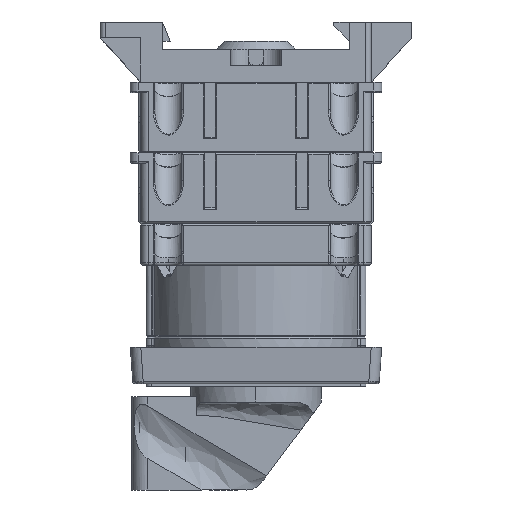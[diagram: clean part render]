
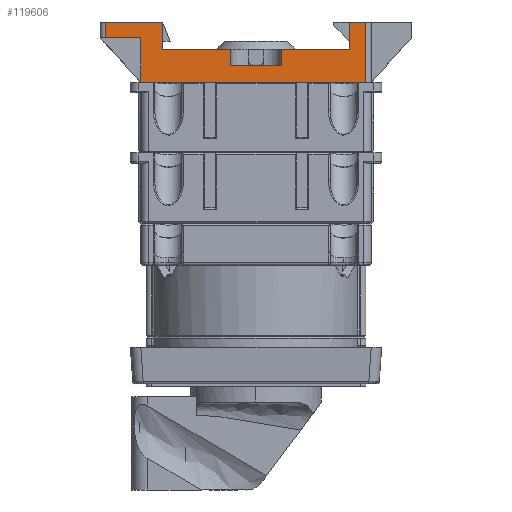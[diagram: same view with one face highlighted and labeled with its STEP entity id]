
A CAD part, left-side view. The second image highlights one B-rep face of the part: STEP entity #119606.
In plain terms, the highlighted planar face has unit normal (-1, 0, 0).
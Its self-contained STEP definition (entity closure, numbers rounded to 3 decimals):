
#621 = VECTOR ( 'NONE', #29292, 1000. ) ;
#1589 = ORIENTED_EDGE ( 'NONE', *, *, #130470, .F. ) ;
#1744 = ORIENTED_EDGE ( 'NONE', *, *, #96057, .F. ) ;
#3516 = EDGE_CURVE ( 'NONE', #81486, #97205, #51312, .T. ) ;
#6375 = CARTESIAN_POINT ( 'NONE',  ( -15.639, -22.961, -144.082 ) ) ;
#6650 = ORIENTED_EDGE ( 'NONE', *, *, #123489, .F. ) ;
#10185 = CARTESIAN_POINT ( 'NONE',  ( -15.639, 23.689, -144.082 ) ) ;
#10835 = CARTESIAN_POINT ( 'NONE',  ( -15.639, -0.311, -152.482 ) ) ;
#12238 = DIRECTION ( 'NONE',  ( 0., 0., 1. ) ) ;
#13483 = LINE ( 'NONE', #6375, #49563 ) ;
#15300 = VECTOR ( 'NONE', #32057, 1000. ) ;
#15307 = DIRECTION ( 'NONE',  ( 0., 0., 1. ) ) ;
#15865 = VERTEX_POINT ( 'NONE', #128282 ) ;
#16726 = VECTOR ( 'NONE', #58040, 1000. ) ;
#19023 = ORIENTED_EDGE ( 'NONE', *, *, #139476, .F. ) ;
#19181 = VERTEX_POINT ( 'NONE', #129572 ) ;
#19647 = CARTESIAN_POINT ( 'NONE',  ( -15.639, 12.739, -144.082 ) ) ;
#20296 = ORIENTED_EDGE ( 'NONE', *, *, #111441, .T. ) ;
#21697 = CARTESIAN_POINT ( 'NONE',  ( -15.639, 16.889, -147.082 ) ) ;
#22864 = VECTOR ( 'NONE', #82666, 1000. ) ;
#24028 = CARTESIAN_POINT ( 'NONE',  ( -15.639, 16.889, -147.082 ) ) ;
#24228 = EDGE_LOOP ( 'NONE', ( #82853, #41825, #1744, #47887, #20296, #89661, #19023, #6650, #132461, #106293, #92398, #122665, #100392, #1589 ) ) ;
#24602 = EDGE_CURVE ( 'NONE', #129950, #15865, #13483, .T. ) ;
#25399 = VERTEX_POINT ( 'NONE', #19647 ) ;
#26353 = VERTEX_POINT ( 'NONE', #50634 ) ;
#28101 = DIRECTION ( 'NONE',  ( 0., 0., 1. ) ) ;
#29292 = DIRECTION ( 'NONE',  ( 0., 1., 0. ) ) ;
#32057 = DIRECTION ( 'NONE',  ( 0., 1., 0. ) ) ;
#32197 = CARTESIAN_POINT ( 'NONE',  ( -15.639, 16.889, -155.582 ) ) ;
#33398 = CARTESIAN_POINT ( 'NONE',  ( -15.639, -26.111, -155.582 ) ) ;
#39403 = CARTESIAN_POINT ( 'NONE',  ( -15.639, -9.911, -152.482 ) ) ;
#40286 = CARTESIAN_POINT ( 'NONE',  ( -15.639, -27.111, -144.082 ) ) ;
#41825 = ORIENTED_EDGE ( 'NONE', *, *, #132750, .T. ) ;
#41841 = VECTOR ( 'NONE', #122661, 1000. ) ;
#41967 = VERTEX_POINT ( 'NONE', #32197 ) ;
#43111 = VECTOR ( 'NONE', #124303, 1000. ) ;
#45389 = LINE ( 'NONE', #80943, #62592 ) ;
#46361 = DIRECTION ( 'NONE',  ( 0., -1., 0. ) ) ;
#46561 = LINE ( 'NONE', #58872, #43111 ) ;
#47887 = ORIENTED_EDGE ( 'NONE', *, *, #64589, .F. ) ;
#49563 = VECTOR ( 'NONE', #28101, 1000. ) ;
#50422 = VECTOR ( 'NONE', #68744, 1000. ) ;
#50634 = CARTESIAN_POINT ( 'NONE',  ( -15.639, 12.739, -149.282 ) ) ;
#51312 = LINE ( 'NONE', #118559, #94343 ) ;
#52320 = VERTEX_POINT ( 'NONE', #10835 ) ;
#54597 = CARTESIAN_POINT ( 'NONE',  ( -15.639, -22.961, -149.282 ) ) ;
#56723 = VECTOR ( 'NONE', #15307, 1000. ) ;
#58040 = DIRECTION ( 'NONE',  ( 0., 1., 0. ) ) ;
#58872 = CARTESIAN_POINT ( 'NONE',  ( -15.639, 12.739, -149.282 ) ) ;
#60862 = LINE ( 'NONE', #40286, #621 ) ;
#62592 = VECTOR ( 'NONE', #46361, 1000. ) ;
#63686 = DIRECTION ( 'NONE',  ( 0., 0., -1. ) ) ;
#64589 = EDGE_CURVE ( 'NONE', #25399, #26353, #74665, .T. ) ;
#67552 = LINE ( 'NONE', #102945, #50422 ) ;
#68494 = CARTESIAN_POINT ( 'NONE',  ( -15.639, -0.311, -152.482 ) ) ;
#68744 = DIRECTION ( 'NONE',  ( 0., 1., 0. ) ) ;
#69171 = LINE ( 'NONE', #39403, #22864 ) ;
#72803 = EDGE_CURVE ( 'NONE', #75296, #129950, #46561, .T. ) ;
#73400 = VERTEX_POINT ( 'NONE', #21697 ) ;
#73673 = LINE ( 'NONE', #132471, #15300 ) ;
#73969 = LINE ( 'NONE', #68494, #56723 ) ;
#74665 = LINE ( 'NONE', #83974, #98705 ) ;
#75296 = VERTEX_POINT ( 'NONE', #92427 ) ;
#76664 = EDGE_CURVE ( 'NONE', #101685, #15865, #73673, .T. ) ;
#79446 = CARTESIAN_POINT ( 'NONE',  ( -15.639, -9.911, -152.482 ) ) ;
#80943 = CARTESIAN_POINT ( 'NONE',  ( -15.639, 12.739, -149.282 ) ) ;
#81486 = VERTEX_POINT ( 'NONE', #10185 ) ;
#82596 = CARTESIAN_POINT ( 'NONE',  ( -15.639, -26.111, -155.582 ) ) ;
#82666 = DIRECTION ( 'NONE',  ( 0., 0., 1. ) ) ;
#82853 = ORIENTED_EDGE ( 'NONE', *, *, #142108, .F. ) ;
#83974 = CARTESIAN_POINT ( 'NONE',  ( -15.639, 12.739, -144.082 ) ) ;
#85398 = DIRECTION ( 'NONE',  ( 0., 0., -1. ) ) ;
#85923 = DIRECTION ( 'NONE',  ( 0., 0., 1. ) ) ;
#89426 = CARTESIAN_POINT ( 'NONE',  ( -15.639, -0.311, -152.482 ) ) ;
#89661 = ORIENTED_EDGE ( 'NONE', *, *, #3516, .T. ) ;
#90536 = LINE ( 'NONE', #24028, #16726 ) ;
#92398 = ORIENTED_EDGE ( 'NONE', *, *, #76664, .T. ) ;
#92427 = CARTESIAN_POINT ( 'NONE',  ( -15.639, -9.911, -149.282 ) ) ;
#94343 = VECTOR ( 'NONE', #63686, 1000. ) ;
#96057 = EDGE_CURVE ( 'NONE', #26353, #19181, #45389, .T. ) ;
#96307 = DIRECTION ( 'NONE',  ( 1., 0., 0. ) ) ;
#96502 = CARTESIAN_POINT ( 'NONE',  ( -15.639, 16.889, -155.582 ) ) ;
#97205 = VERTEX_POINT ( 'NONE', #141230 ) ;
#98071 = VERTEX_POINT ( 'NONE', #79446 ) ;
#98705 = VECTOR ( 'NONE', #85398, 1000. ) ;
#98751 = LINE ( 'NONE', #96502, #105619 ) ;
#100392 = ORIENTED_EDGE ( 'NONE', *, *, #72803, .F. ) ;
#101112 = EDGE_CURVE ( 'NONE', #103278, #101685, #109661, .T. ) ;
#101685 = VERTEX_POINT ( 'NONE', #108150 ) ;
#102562 = EDGE_CURVE ( 'NONE', #103278, #41967, #67552, .T. ) ;
#102945 = CARTESIAN_POINT ( 'NONE',  ( -15.639, -27.111, -155.582 ) ) ;
#103278 = VERTEX_POINT ( 'NONE', #82596 ) ;
#105619 = VECTOR ( 'NONE', #85923, 1000. ) ;
#106293 = ORIENTED_EDGE ( 'NONE', *, *, #101112, .T. ) ;
#106832 = CARTESIAN_POINT ( 'NONE',  ( -15.639, -27.111, -155.582 ) ) ;
#108150 = CARTESIAN_POINT ( 'NONE',  ( -15.639, -26.111, -144.082 ) ) ;
#109661 = LINE ( 'NONE', #33398, #113165 ) ;
#111441 = EDGE_CURVE ( 'NONE', #25399, #81486, #60862, .T. ) ;
#112338 = LINE ( 'NONE', #89426, #41841 ) ;
#113165 = VECTOR ( 'NONE', #12238, 1000. ) ;
#118559 = CARTESIAN_POINT ( 'NONE',  ( -15.639, 23.689, -155.582 ) ) ;
#119606 = ADVANCED_FACE ( 'NONE', ( #123722 ), #129978, .F. ) ;
#119824 = DIRECTION ( 'NONE',  ( 0., -1., 0. ) ) ;
#122661 = DIRECTION ( 'NONE',  ( 0., -1., 0. ) ) ;
#122665 = ORIENTED_EDGE ( 'NONE', *, *, #24602, .F. ) ;
#123489 = EDGE_CURVE ( 'NONE', #41967, #73400, #98751, .T. ) ;
#123722 = FACE_OUTER_BOUND ( 'NONE', #24228, .T. ) ;
#124303 = DIRECTION ( 'NONE',  ( 0., -1., 0. ) ) ;
#126614 = AXIS2_PLACEMENT_3D ( 'NONE', #106832, #96307, #119824 ) ;
#128282 = CARTESIAN_POINT ( 'NONE',  ( -15.639, -22.961, -144.082 ) ) ;
#129572 = CARTESIAN_POINT ( 'NONE',  ( -15.639, -0.311, -149.282 ) ) ;
#129950 = VERTEX_POINT ( 'NONE', #54597 ) ;
#129978 = PLANE ( 'NONE',  #126614 ) ;
#130470 = EDGE_CURVE ( 'NONE', #98071, #75296, #69171, .T. ) ;
#132461 = ORIENTED_EDGE ( 'NONE', *, *, #102562, .F. ) ;
#132471 = CARTESIAN_POINT ( 'NONE',  ( -15.639, -27.111, -144.082 ) ) ;
#132750 = EDGE_CURVE ( 'NONE', #52320, #19181, #73969, .T. ) ;
#139476 = EDGE_CURVE ( 'NONE', #73400, #97205, #90536, .T. ) ;
#141230 = CARTESIAN_POINT ( 'NONE',  ( -15.639, 23.689, -147.082 ) ) ;
#142108 = EDGE_CURVE ( 'NONE', #52320, #98071, #112338, .T. ) ;
